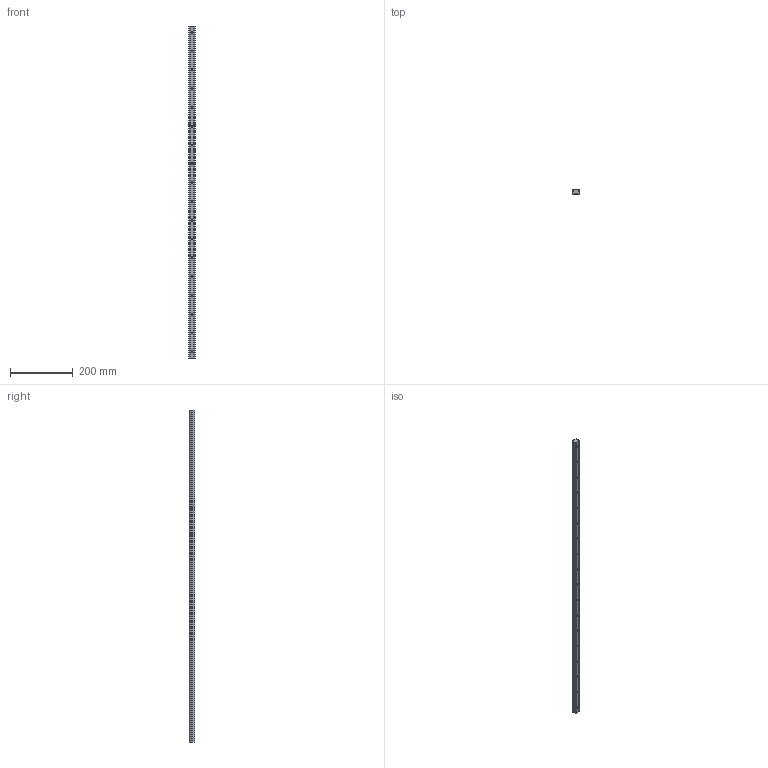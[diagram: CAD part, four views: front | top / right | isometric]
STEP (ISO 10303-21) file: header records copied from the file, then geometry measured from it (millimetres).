
FILE_DESCRIPTION (( 'STEP AP203' ), '1' );
FILE_NAME ('L1016.BL20-1060.step', '2019-06-12T11:48:12', ( '' ), ( '' ), 'SwSTEP 2.0', 'SolidWorks 2017', '' );
FILE_SCHEMA (( 'CONFIG_CONTROL_DESIGN' ));
Length unit declared in the file: millimetre
Products named in the file (1): L1016.BL20-1060
Bounding box: 20 x 16.3 x 1060 mm (x, y, z)
Volume: 294481 mm3; surface area: 85704.1 mm2
Topology: 1 solids, 1 shells, 116 faces, 288 edges, 192 vertices
Faces by surface type: cylinder 76, plane 40
Entity records: 3673 total; most frequent: DIRECTION 674, CARTESIAN_POINT 597, ORIENTED_EDGE 576, EDGE_CURVE 288, AXIS2_PLACEMENT_3D 269, VERTEX_POINT 192, EDGE_LOOP 170, CIRCLE 152
